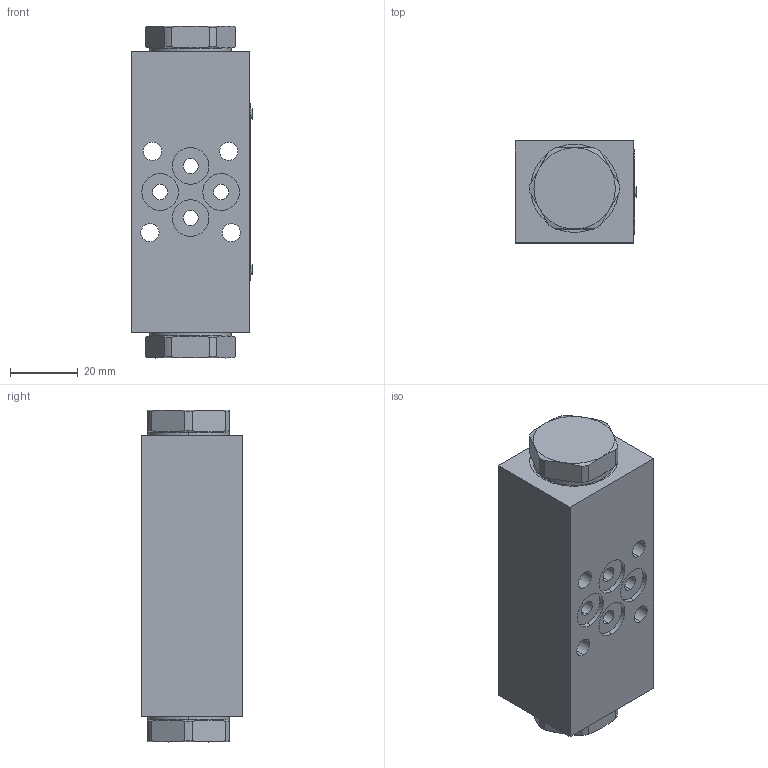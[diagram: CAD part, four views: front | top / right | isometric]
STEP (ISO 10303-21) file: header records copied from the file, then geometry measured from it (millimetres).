
FILE_DESCRIPTION((''),'2;1');
FILE_NAME('VJR1_04','2011-03-14T',('tvatras'),(''),'PRO/ENGINEER BY PARAMETRIC TECHNOLOGY CORPORATION, 2010180','PRO/ENGINEER BY PARAMETRIC TECHNOLOGY CORPORATION, 2010180','');
FILE_SCHEMA(('CONFIG_CONTROL_DESIGN'));
Length unit declared in the file: millimetre
Products named in the file (1): VJR1_04
Bounding box: 35.8 x 30 x 98 mm (x, y, z)
Volume: 89701.2 mm3; surface area: 17964.9 mm2
Topology: 1 solids, 1 shells, 109 faces, 278 edges, 184 vertices
Faces by surface type: cylinder 52, plane 33, cone 24
Entity records: 3543 total; most frequent: CARTESIAN_POINT 778, DIRECTION 594, ORIENTED_EDGE 552, EDGE_CURVE 276, AXIS2_PLACEMENT_3D 252, VERTEX_POINT 180, CIRCLE 140, EDGE_LOOP 136
